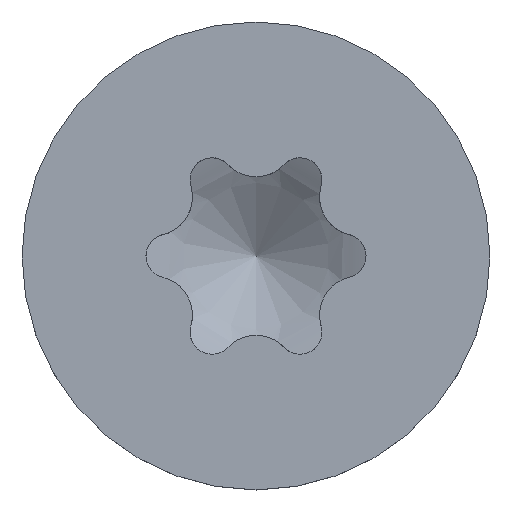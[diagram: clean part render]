
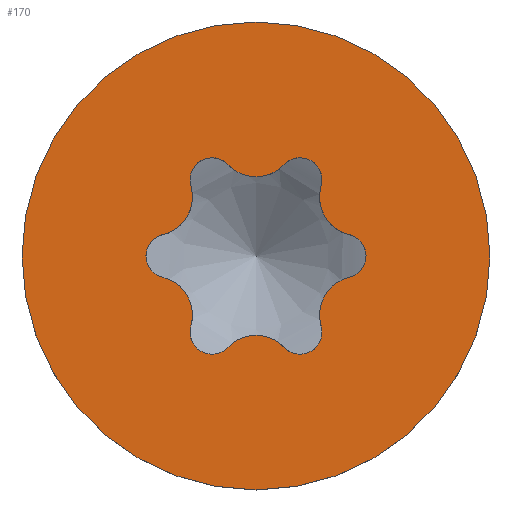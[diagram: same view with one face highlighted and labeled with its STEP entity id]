
A CAD part, top view. The second image highlights one B-rep face of the part: STEP entity #170.
In plain terms, the highlighted planar face has unit normal (0, 0, 1).
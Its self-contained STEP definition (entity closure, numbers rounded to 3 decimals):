
#141=PLANE('',#881);
#152=FACE_BOUND('',#286,.T.);
#153=FACE_BOUND('',#287,.T.);
#170=ADVANCED_FACE('',(#152,#153),#141,.T.);
#286=EDGE_LOOP('',(#398,#399,#400,#401,#402,#403,#404,#405,#406,#407,#408,
#409));
#287=EDGE_LOOP('',(#410));
#340=CIRCLE('',#867,4.2);
#341=CIRCLE('',#869,0.697);
#342=CIRCLE('',#870,0.395);
#343=CIRCLE('',#871,0.697);
#344=CIRCLE('',#872,0.395);
#345=CIRCLE('',#873,0.697);
#346=CIRCLE('',#874,0.395);
#347=CIRCLE('',#875,0.697);
#348=CIRCLE('',#876,0.395);
#349=CIRCLE('',#877,0.697);
#350=CIRCLE('',#878,0.395);
#351=CIRCLE('',#879,0.697);
#352=CIRCLE('',#880,0.395);
#398=ORIENTED_EDGE('',*,*,#709,.F.);
#399=ORIENTED_EDGE('',*,*,#710,.F.);
#400=ORIENTED_EDGE('',*,*,#711,.F.);
#401=ORIENTED_EDGE('',*,*,#712,.F.);
#402=ORIENTED_EDGE('',*,*,#713,.F.);
#403=ORIENTED_EDGE('',*,*,#714,.F.);
#404=ORIENTED_EDGE('',*,*,#715,.F.);
#405=ORIENTED_EDGE('',*,*,#716,.F.);
#406=ORIENTED_EDGE('',*,*,#717,.F.);
#407=ORIENTED_EDGE('',*,*,#718,.F.);
#408=ORIENTED_EDGE('',*,*,#719,.F.);
#409=ORIENTED_EDGE('',*,*,#720,.F.);
#410=ORIENTED_EDGE('',*,*,#708,.F.);
#627=VERTEX_POINT('',#2101);
#628=VERTEX_POINT('',#2104);
#629=VERTEX_POINT('',#2105);
#630=VERTEX_POINT('',#2107);
#631=VERTEX_POINT('',#2109);
#632=VERTEX_POINT('',#2111);
#633=VERTEX_POINT('',#2113);
#634=VERTEX_POINT('',#2115);
#635=VERTEX_POINT('',#2117);
#636=VERTEX_POINT('',#2119);
#637=VERTEX_POINT('',#2121);
#638=VERTEX_POINT('',#2123);
#639=VERTEX_POINT('',#2125);
#708=EDGE_CURVE('',#627,#627,#340,.T.);
#709=EDGE_CURVE('',#628,#629,#341,.T.);
#710=EDGE_CURVE('',#630,#628,#342,.T.);
#711=EDGE_CURVE('',#631,#630,#343,.T.);
#712=EDGE_CURVE('',#632,#631,#344,.T.);
#713=EDGE_CURVE('',#633,#632,#345,.T.);
#714=EDGE_CURVE('',#634,#633,#346,.T.);
#715=EDGE_CURVE('',#635,#634,#347,.T.);
#716=EDGE_CURVE('',#636,#635,#348,.T.);
#717=EDGE_CURVE('',#637,#636,#349,.T.);
#718=EDGE_CURVE('',#638,#637,#350,.T.);
#719=EDGE_CURVE('',#639,#638,#351,.T.);
#720=EDGE_CURVE('',#629,#639,#352,.T.);
#867=AXIS2_PLACEMENT_3D('',#2100,#928,#929);
#869=AXIS2_PLACEMENT_3D('',#2103,#932,#933);
#870=AXIS2_PLACEMENT_3D('',#2106,#934,#935);
#871=AXIS2_PLACEMENT_3D('',#2108,#936,#937);
#872=AXIS2_PLACEMENT_3D('',#2110,#938,#939);
#873=AXIS2_PLACEMENT_3D('',#2112,#940,#941);
#874=AXIS2_PLACEMENT_3D('',#2114,#942,#943);
#875=AXIS2_PLACEMENT_3D('',#2116,#944,#945);
#876=AXIS2_PLACEMENT_3D('',#2118,#946,#947);
#877=AXIS2_PLACEMENT_3D('',#2120,#948,#949);
#878=AXIS2_PLACEMENT_3D('',#2122,#950,#951);
#879=AXIS2_PLACEMENT_3D('',#2124,#952,#953);
#880=AXIS2_PLACEMENT_3D('',#2126,#954,#955);
#881=AXIS2_PLACEMENT_3D('',#2127,#956,#957);
#928=DIRECTION('',(0.,0.,-1.));
#929=DIRECTION('',(0.,1.,0.));
#932=DIRECTION('',(0.,0.,-1.));
#933=DIRECTION('',(0.,-1.,0.));
#934=DIRECTION('',(0.,0.,1.));
#935=DIRECTION('',(0.,-1.,0.));
#936=DIRECTION('',(0.,0.,-1.));
#937=DIRECTION('',(0.,-1.,0.));
#938=DIRECTION('',(0.,0.,1.));
#939=DIRECTION('',(0.,-1.,0.));
#940=DIRECTION('',(0.,0.,-1.));
#941=DIRECTION('',(0.,-1.,0.));
#942=DIRECTION('',(0.,0.,1.));
#943=DIRECTION('',(0.,-1.,0.));
#944=DIRECTION('',(0.,0.,-1.));
#945=DIRECTION('',(0.,-1.,0.));
#946=DIRECTION('',(0.,0.,1.));
#947=DIRECTION('',(0.,-1.,0.));
#948=DIRECTION('',(0.,0.,-1.));
#949=DIRECTION('',(0.,-1.,0.));
#950=DIRECTION('',(0.,0.,1.));
#951=DIRECTION('',(0.,-1.,0.));
#952=DIRECTION('',(0.,0.,-1.));
#953=DIRECTION('',(0.,-1.,0.));
#954=DIRECTION('',(0.,0.,1.));
#955=DIRECTION('',(0.,-1.,0.));
#956=DIRECTION('',(0.,0.,1.));
#957=DIRECTION('',(0.,-1.,0.));
#2100=CARTESIAN_POINT('',(0.,0.,3.52));
#2101=CARTESIAN_POINT('',(0.,4.2,3.52));
#2103=CARTESIAN_POINT('',(1.837,-1.061,3.52));
#2104=CARTESIAN_POINT('',(1.169,-1.257,3.52));
#2105=CARTESIAN_POINT('',(1.673,-0.384,3.52));
#2106=CARTESIAN_POINT('',(0.79,-1.368,3.52));
#2107=CARTESIAN_POINT('',(0.504,-1.641,3.52));
#2108=CARTESIAN_POINT('',(0.,-2.122,3.52));
#2109=CARTESIAN_POINT('',(-0.504,-1.641,3.52));
#2110=CARTESIAN_POINT('',(-0.79,-1.368,3.52));
#2111=CARTESIAN_POINT('',(-1.169,-1.257,3.52));
#2112=CARTESIAN_POINT('',(-1.837,-1.061,3.52));
#2113=CARTESIAN_POINT('',(-1.673,-0.384,3.52));
#2114=CARTESIAN_POINT('',(-1.58,0.,3.52));
#2115=CARTESIAN_POINT('',(-1.673,0.384,3.52));
#2116=CARTESIAN_POINT('',(-1.837,1.061,3.52));
#2117=CARTESIAN_POINT('',(-1.169,1.257,3.52));
#2118=CARTESIAN_POINT('',(-0.79,1.368,3.52));
#2119=CARTESIAN_POINT('',(-0.504,1.641,3.52));
#2120=CARTESIAN_POINT('',(0.,2.122,3.52));
#2121=CARTESIAN_POINT('',(0.504,1.641,3.52));
#2122=CARTESIAN_POINT('',(0.79,1.368,3.52));
#2123=CARTESIAN_POINT('',(1.169,1.257,3.52));
#2124=CARTESIAN_POINT('',(1.837,1.061,3.52));
#2125=CARTESIAN_POINT('',(1.673,0.384,3.52));
#2126=CARTESIAN_POINT('',(1.58,0.,3.52));
#2127=CARTESIAN_POINT('',(0.,4.2,3.52));
